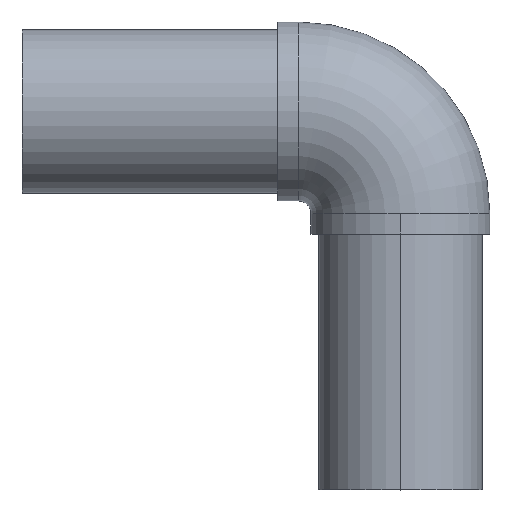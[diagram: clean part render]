
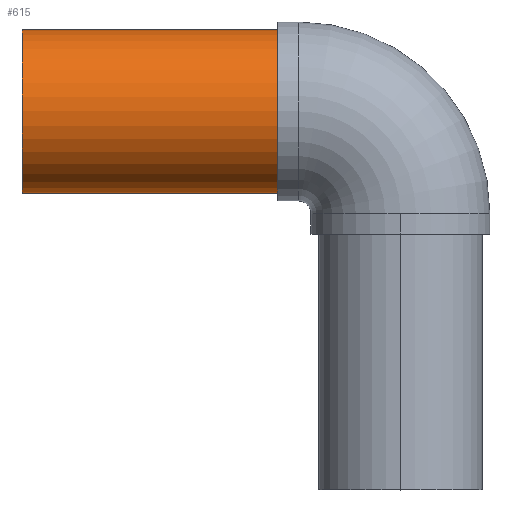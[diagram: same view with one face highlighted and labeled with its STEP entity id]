
A CAD part, top view. The second image highlights one B-rep face of the part: STEP entity #615.
In plain terms, the highlighted cylindrical face has radius 16 mm (diameter 32 mm), a partial arc.
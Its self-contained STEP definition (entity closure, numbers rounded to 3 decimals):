
#19 = CIRCLE ( 'NONE', #25, 16. ) ;
#25 = AXIS2_PLACEMENT_3D ( 'NONE', #387, #388, #389 ) ;
#40 = VECTOR ( 'NONE', #400, 1000. ) ;
#42 = CIRCLE ( 'NONE', #59, 16. ) ;
#56 = VECTOR ( 'NONE', #394, 1000. ) ;
#59 = AXIS2_PLACEMENT_3D ( 'NONE', #396, #397, #398 ) ;
#143 = EDGE_CURVE ( 'NONE', #244, #245, #19, .T. ) ;
#145 = EDGE_CURVE ( 'NONE', #245, #268, #378, .T. ) ;
#146 = EDGE_CURVE ( 'NONE', #250, #268, #42, .T. ) ;
#147 = EDGE_CURVE ( 'NONE', #244, #250, #395, .T. ) ;
#201 = AXIS2_PLACEMENT_3D ( 'NONE', #469, #465, #472 ) ;
#244 = VERTEX_POINT ( 'NONE', #420 ) ;
#245 = VERTEX_POINT ( 'NONE', #427 ) ;
#250 = VERTEX_POINT ( 'NONE', #432 ) ;
#264 = ORIENTED_EDGE ( 'NONE', *, *, #145, .T. ) ;
#268 = VERTEX_POINT ( 'NONE', #434 ) ;
#275 = EDGE_LOOP ( 'NONE', ( #302, #264, #318, #333 ) ) ;
#302 = ORIENTED_EDGE ( 'NONE', *, *, #143, .T. ) ;
#318 = ORIENTED_EDGE ( 'NONE', *, *, #146, .F. ) ;
#333 = ORIENTED_EDGE ( 'NONE', *, *, #147, .F. ) ;
#378 = LINE ( 'NONE', #386, #56 ) ;
#386 = CARTESIAN_POINT ( 'NONE',  ( -24., 90., 0. ) ) ;
#387 = CARTESIAN_POINT ( 'NONE',  ( -24., 74., 0. ) ) ;
#388 = DIRECTION ( 'NONE',  ( -1., 0., 0. ) ) ;
#389 = DIRECTION ( 'NONE',  ( 0., -1., 0. ) ) ;
#390 = CARTESIAN_POINT ( 'NONE',  ( -24., 58., 0. ) ) ;
#394 = DIRECTION ( 'NONE',  ( -1., 0., 0. ) ) ;
#395 = LINE ( 'NONE', #390, #40 ) ;
#396 = CARTESIAN_POINT ( 'NONE',  ( -74., 74., 0. ) ) ;
#397 = DIRECTION ( 'NONE',  ( -1., 0., 0. ) ) ;
#398 = DIRECTION ( 'NONE',  ( 0., -1., 0. ) ) ;
#400 = DIRECTION ( 'NONE',  ( -1., 0., 0. ) ) ;
#420 = CARTESIAN_POINT ( 'NONE',  ( -24., 58., 0. ) ) ;
#427 = CARTESIAN_POINT ( 'NONE',  ( -24., 90., 0. ) ) ;
#432 = CARTESIAN_POINT ( 'NONE',  ( -74., 58., 0. ) ) ;
#434 = CARTESIAN_POINT ( 'NONE',  ( -74., 90., 0. ) ) ;
#465 = DIRECTION ( 'NONE',  ( -1., 0., 0. ) ) ;
#468 = FACE_OUTER_BOUND ( 'NONE', #275, .T. ) ;
#469 = CARTESIAN_POINT ( 'NONE',  ( -24., 74., 0. ) ) ;
#471 = CYLINDRICAL_SURFACE ( 'NONE', #201, 16. ) ;
#472 = DIRECTION ( 'NONE',  ( 0., -1., 0. ) ) ;
#615 = ADVANCED_FACE ( 'NONE', ( #468 ), #471, .T. ) ;
